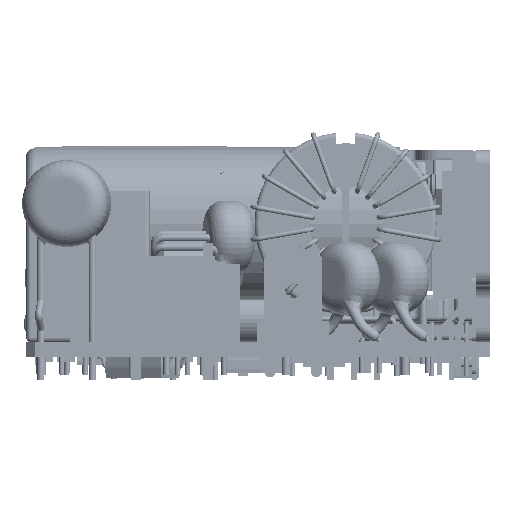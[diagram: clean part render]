
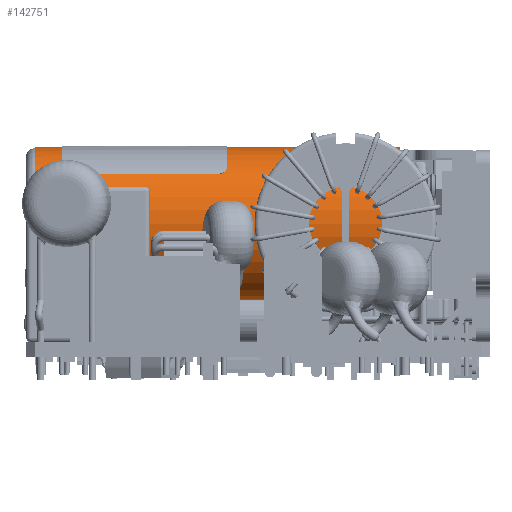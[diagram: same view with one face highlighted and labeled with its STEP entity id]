
A CAD part, left-side view. The second image highlights one B-rep face of the part: STEP entity #142751.
In plain terms, the highlighted cylindrical face has radius 8.4 mm (diameter 16.8 mm), a partial arc.
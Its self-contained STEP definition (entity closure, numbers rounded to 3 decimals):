
#781 = CYLINDRICAL_SURFACE ( 'NONE', #99064, 8.4 ) ;
#2654 = ORIENTED_EDGE ( 'NONE', *, *, #144423, .T. ) ;
#3418 = CARTESIAN_POINT ( 'NONE',  ( -10.185, 40.132, 14.649 ) ) ;
#4656 = CARTESIAN_POINT ( 'NONE',  ( -9.593, 23., 15.287 ) ) ;
#5223 = EDGE_CURVE ( 'NONE', #30339, #113365, #12703, .T. ) ;
#10574 = ORIENTED_EDGE ( 'NONE', *, *, #59526, .F. ) ;
#12703 = LINE ( 'NONE', #33209, #72655 ) ;
#17489 = DIRECTION ( 'NONE',  ( 0., 1., 0. ) ) ;
#18536 = AXIS2_PLACEMENT_3D ( 'NONE', #101271, #29757, #113278 ) ;
#27484 = CARTESIAN_POINT ( 'NONE',  ( -10.168, 40.262, 14.669 ) ) ;
#29321 = CARTESIAN_POINT ( 'NONE',  ( -3.75, 44., 0.85 ) ) ;
#29757 = DIRECTION ( 'NONE',  ( 0., 1., 0. ) ) ;
#30339 = VERTEX_POINT ( 'NONE', #152380 ) ;
#31480 = VECTOR ( 'NONE', #17489, 1000. ) ;
#31716 = CARTESIAN_POINT ( 'NONE',  ( -10.185, 40., 14.649 ) ) ;
#33209 = CARTESIAN_POINT ( 'NONE',  ( -10.185, 23., 14.649 ) ) ;
#34651 = CARTESIAN_POINT ( 'NONE',  ( -9.496, 23., 15.377 ) ) ;
#34800 = CARTESIAN_POINT ( 'NONE',  ( -3.75, 23., 17.65 ) ) ;
#35572 = EDGE_LOOP ( 'NONE', ( #10574, #125420, #2654, #111750, #95665, #114325, #69682, #57218, #83065, #152213 ) ) ;
#39418 = CIRCLE ( 'NONE', #109608, 8.4 ) ;
#39514 = CARTESIAN_POINT ( 'NONE',  ( -10.054, 40.615, 14.802 ) ) ;
#43402 = CARTESIAN_POINT ( 'NONE',  ( -3.75, 41., 9.25 ) ) ;
#46985 = EDGE_CURVE ( 'NONE', #93256, #134609, #118696, .T. ) ;
#51586 = CARTESIAN_POINT ( 'NONE',  ( -9.854, 40.874, 15.022 ) ) ;
#52881 = CARTESIAN_POINT ( 'NONE',  ( -9.854, 23.126, 15.022 ) ) ;
#54772 = EDGE_CURVE ( 'NONE', #154321, #142148, #142616, .T. ) ;
#55498 = DIRECTION ( 'NONE',  ( 0., 0., 1. ) ) ;
#56623 = CARTESIAN_POINT ( 'NONE',  ( -3.75, 44., 9.25 ) ) ;
#57218 = ORIENTED_EDGE ( 'NONE', *, *, #62095, .F. ) ;
#59177 = VERTEX_POINT ( 'NONE', #111736 ) ;
#59526 = EDGE_CURVE ( 'NONE', #65902, #154321, #119968, .T. ) ;
#62095 = EDGE_CURVE ( 'NONE', #130944, #110528, #39418, .T. ) ;
#62993 = EDGE_CURVE ( 'NONE', #130944, #142148, #115406, .T. ) ;
#63283 = LINE ( 'NONE', #65143, #31480 ) ;
#63614 = CARTESIAN_POINT ( 'NONE',  ( -9.593, 41., 15.287 ) ) ;
#64857 = CARTESIAN_POINT ( 'NONE',  ( -10.116, 23.476, 14.734 ) ) ;
#65143 = CARTESIAN_POINT ( 'NONE',  ( -3.75, 4., 17.65 ) ) ;
#65902 = VERTEX_POINT ( 'NONE', #71357 ) ;
#68574 = DIRECTION ( 'NONE',  ( 0., 0., 1. ) ) ;
#69208 = CARTESIAN_POINT ( 'NONE',  ( -3.75, 23., 9.25 ) ) ;
#69682 = ORIENTED_EDGE ( 'NONE', *, *, #85984, .T. ) ;
#71357 = CARTESIAN_POINT ( 'NONE',  ( -3.75, 4., 0.85 ) ) ;
#71945 = DIRECTION ( 'NONE',  ( 0., 0., 1. ) ) ;
#72655 = VECTOR ( 'NONE', #140213, 1000. ) ;
#74175 = B_SPLINE_CURVE_WITH_KNOTS ( 'NONE', 3,
 ( #99032, #3418, #27484, #111044, #39514, #123083, #51586, #135042, #63614, #147107 ),
 .UNSPECIFIED., .F., .F.,
 ( 4, 2, 2, 2, 4 ),
 ( 0., 0., 0.001, 0.001, 0.002 ),
 .UNSPECIFIED. ) ;
#76829 = CARTESIAN_POINT ( 'NONE',  ( -10.185, 24., 14.649 ) ) ;
#79372 = FACE_OUTER_BOUND ( 'NONE', #35572, .T. ) ;
#81201 = DIRECTION ( 'NONE',  ( 0., 0., 1. ) ) ;
#83065 = ORIENTED_EDGE ( 'NONE', *, *, #62993, .T. ) ;
#83660 = VECTOR ( 'NONE', #98946, 1000. ) ;
#85984 = EDGE_CURVE ( 'NONE', #113365, #110528, #74175, .T. ) ;
#86317 = EDGE_CURVE ( 'NONE', #65902, #59177, #118042, .T. ) ;
#88193 = VECTOR ( 'NONE', #118430, 1000. ) ;
#88313 = CARTESIAN_POINT ( 'NONE',  ( -9.496, 23., 15.377 ) ) ;
#93256 = VERTEX_POINT ( 'NONE', #34800 ) ;
#93499 = AXIS2_PLACEMENT_3D ( 'NONE', #69208, #152738, #81201 ) ;
#94890 = DIRECTION ( 'NONE',  ( 0., 1., 0. ) ) ;
#95665 = ORIENTED_EDGE ( 'NONE', *, *, #108712, .T. ) ;
#98946 = DIRECTION ( 'NONE',  ( 0., 1., 0. ) ) ;
#99032 = CARTESIAN_POINT ( 'NONE',  ( -10.185, 40., 14.649 ) ) ;
#99064 = AXIS2_PLACEMENT_3D ( 'NONE', #142951, #94890, #71945 ) ;
#101271 = CARTESIAN_POINT ( 'NONE',  ( -3.75, 4., 9.25 ) ) ;
#106281 = B_SPLINE_CURVE_WITH_KNOTS ( 'NONE', 3,
 ( #88313, #4656, #124330, #52881, #136316, #64857, #148355, #76829 ),
 .UNSPECIFIED., .F., .F.,
 ( 4, 2, 2, 4 ),
 ( 0., 0., 0.001, 0.002 ),
 .UNSPECIFIED. ) ;
#108712 = EDGE_CURVE ( 'NONE', #134609, #30339, #106281, .T. ) ;
#109608 = AXIS2_PLACEMENT_3D ( 'NONE', #43402, #126954, #55498 ) ;
#110528 = VERTEX_POINT ( 'NONE', #139426 ) ;
#110959 = CARTESIAN_POINT ( 'NONE',  ( -3.75, 4., 17.65 ) ) ;
#111044 = CARTESIAN_POINT ( 'NONE',  ( -10.103, 40.504, 14.746 ) ) ;
#111736 = CARTESIAN_POINT ( 'NONE',  ( -3.75, 4., 17.65 ) ) ;
#111750 = ORIENTED_EDGE ( 'NONE', *, *, #46985, .T. ) ;
#113278 = DIRECTION ( 'NONE',  ( 0., 0., 1. ) ) ;
#113365 = VERTEX_POINT ( 'NONE', #31716 ) ;
#114325 = ORIENTED_EDGE ( 'NONE', *, *, #5223, .T. ) ;
#115406 = LINE ( 'NONE', #110959, #83660 ) ;
#118042 = CIRCLE ( 'NONE', #18536, 8.4 ) ;
#118430 = DIRECTION ( 'NONE',  ( 0., 1., 0. ) ) ;
#118696 = CIRCLE ( 'NONE', #93499, 8.4 ) ;
#119968 = LINE ( 'NONE', #153978, #88193 ) ;
#123083 = CARTESIAN_POINT ( 'NONE',  ( -9.93, 40.8, 14.94 ) ) ;
#124330 = CARTESIAN_POINT ( 'NONE',  ( -9.685, 23.026, 15.195 ) ) ;
#125420 = ORIENTED_EDGE ( 'NONE', *, *, #86317, .T. ) ;
#126954 = DIRECTION ( 'NONE',  ( 0., -1., 0. ) ) ;
#130944 = VERTEX_POINT ( 'NONE', #146413 ) ;
#132128 = CARTESIAN_POINT ( 'NONE',  ( -3.75, 44., 17.65 ) ) ;
#134609 = VERTEX_POINT ( 'NONE', #34651 ) ;
#135042 = CARTESIAN_POINT ( 'NONE',  ( -9.686, 40.974, 15.194 ) ) ;
#136316 = CARTESIAN_POINT ( 'NONE',  ( -9.93, 23.2, 14.94 ) ) ;
#139426 = CARTESIAN_POINT ( 'NONE',  ( -9.496, 41., 15.377 ) ) ;
#140090 = DIRECTION ( 'NONE',  ( 0., 1., 0. ) ) ;
#140213 = DIRECTION ( 'NONE',  ( 0., 1., 0. ) ) ;
#142148 = VERTEX_POINT ( 'NONE', #132128 ) ;
#142616 = CIRCLE ( 'NONE', #145348, 8.4 ) ;
#142751 = ADVANCED_FACE ( 'NONE', ( #79372 ), #781, .T. ) ;
#142951 = CARTESIAN_POINT ( 'NONE',  ( -3.75, 4., 9.25 ) ) ;
#144423 = EDGE_CURVE ( 'NONE', #59177, #93256, #63283, .T. ) ;
#145348 = AXIS2_PLACEMENT_3D ( 'NONE', #56623, #140090, #68574 ) ;
#146413 = CARTESIAN_POINT ( 'NONE',  ( -3.75, 41., 17.65 ) ) ;
#147107 = CARTESIAN_POINT ( 'NONE',  ( -9.496, 41., 15.377 ) ) ;
#148355 = CARTESIAN_POINT ( 'NONE',  ( -10.185, 23.736, 14.649 ) ) ;
#152213 = ORIENTED_EDGE ( 'NONE', *, *, #54772, .F. ) ;
#152380 = CARTESIAN_POINT ( 'NONE',  ( -10.185, 24., 14.649 ) ) ;
#152738 = DIRECTION ( 'NONE',  ( 0., -1., 0. ) ) ;
#153978 = CARTESIAN_POINT ( 'NONE',  ( -3.75, 4., 0.85 ) ) ;
#154321 = VERTEX_POINT ( 'NONE', #29321 ) ;
